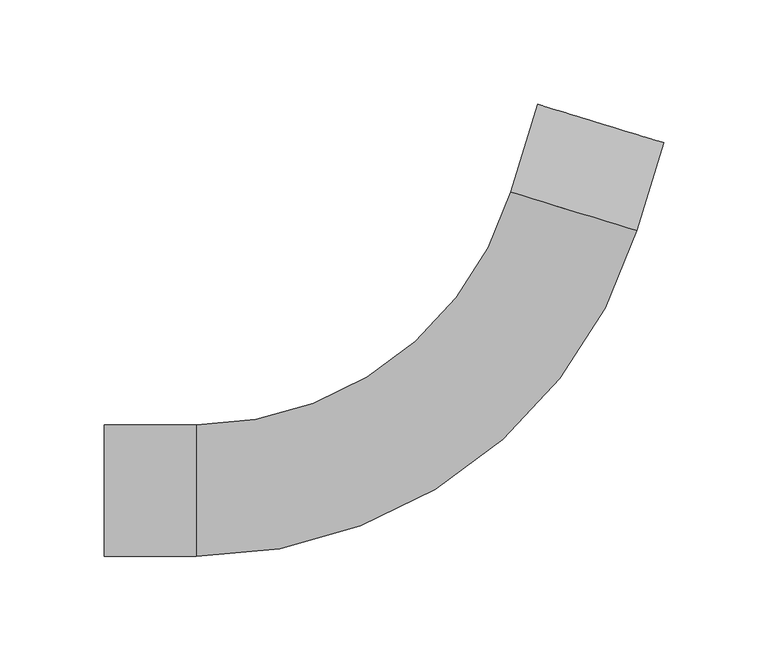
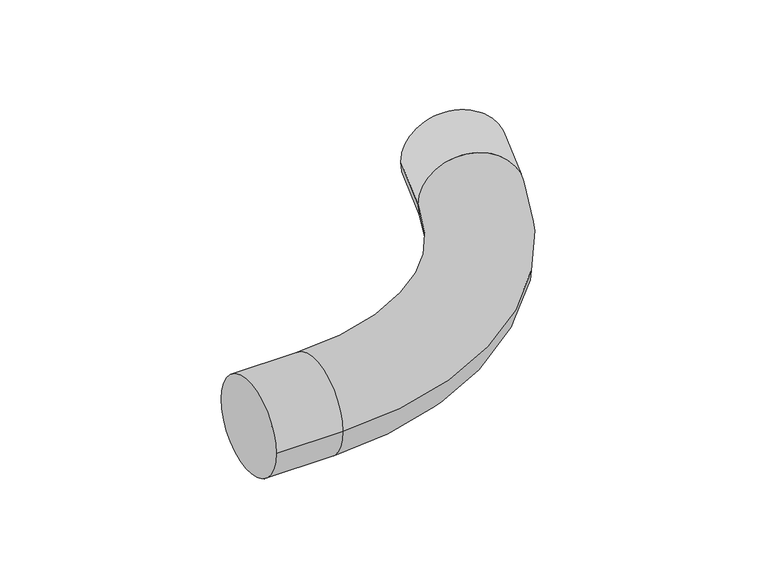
"""IFC4 building model written with IfcOpenShell, lengths in millimetres: cable carrier fitting geometry, Трубы гофрированные двустенные ПНД-ПВД : Трубы гофрированные двустенные ПНД-ПВД."""

import ifcopenshell
import ifcopenshell.guid

model = None  # the IFC model being written
_history = None  # IfcOwnerHistory: only IFC2X3 demands one
_inside = {}  # id of a spatial element -> (the spatial element, [elements in it])
_under = {}  # id of a project, library or spatial element -> (it, [spatial elements below it])
_declared = {}  # id of a project -> (the project, [libraries it declares])
_typed = {}  # id of a type object -> (the type object, [elements of that type])
_made_of = {}  # id of a material, layer set ... -> (it, [elements and type objects made of it])


def new_model(schema):
    """Start an empty IFC model of exactly this schema.

    Asked for "IFC4X3", IfcOpenShell would pick the latest addendum, in which some entities
    have other attributes; the version numbers below select the first issue.
    IFC2X3 requires an IfcOwnerHistory on every rooted entity: one is made here for all.
    """
    global model, _history
    if schema == "IFC4X3":
        model = ifcopenshell.file(schema_version=(4, 3, 0, 0))
    else:
        model = ifcopenshell.file(schema=schema)
    _inside.clear()
    _under.clear()
    _declared.clear()
    _typed.clear()
    _made_of.clear()
    _history = None
    if model.schema == "IFC2X3":
        org = make("IfcOrganization", Name="unknown")
        user = make(
            "IfcPersonAndOrganization",
            ThePerson=make("IfcPerson", FamilyName="unknown"),
            TheOrganization=org,
        )
        app = make(
            "IfcApplication",
            ApplicationDeveloper=org,
            Version="unknown",
            ApplicationFullName="unknown",
            ApplicationIdentifier="unknown",
        )
        _history = make(
            "IfcOwnerHistory",
            OwningUser=user,
            OwningApplication=app,
            ChangeAction="ADDED",
            CreationDate=0,
        )
    return model


def make(cls, **values):
    """One entity of the class cls with the attributes given. An attribute that is None is left unset."""
    return model.create_entity(
        cls, **{name: value for name, value in values.items() if value is not None}
    )


def rooted(cls, **values):
    """An entity with a GlobalId (a new one), such as an element, a storey or a relation."""
    return make(cls, GlobalId=ifcopenshell.guid.new(), OwnerHistory=_history, **values)


def si_unit(unit_type, name, prefix=None):
    """IfcSIUnit, for example si_unit("LENGTHUNIT", "METRE", prefix="MILLI")."""
    return make("IfcSIUnit", UnitType=unit_type, Prefix=prefix, Name=name)


def assignment(units):
    """IfcUnitAssignment: the units of a project."""
    return None if units is None else make("IfcUnitAssignment", Units=units)


def point(xyz):
    """IfcCartesianPoint."""
    return None if xyz is None else make("IfcCartesianPoint", Coordinates=xyz)


def direction(xyz):
    """IfcDirection."""
    return None if xyz is None else make("IfcDirection", DirectionRatios=xyz)


def frame(location, z_axis=None, x_axis=None):
    """IfcAxis2Placement3D, a coordinate frame: its origin and axes. An axis left out is left unset."""
    return make(
        "IfcAxis2Placement3D",
        Location=point(location),
        Axis=direction(z_axis),
        RefDirection=direction(x_axis),
    )


def origin():
    """The frame at (0, 0, 0) with its axes left unset."""
    return frame((0.0, 0.0, 0.0))


def place(relative_to, where):
    """IfcLocalPlacement: puts the frame where relative to a parent placement (None: the world)."""
    return make(
        "IfcLocalPlacement", PlacementRelTo=relative_to, RelativePlacement=where
    )


def context(
    kind, dimensions, precision=None, world=None, true_north=None, identifier=None
):
    """IfcGeometricRepresentationContext, for example the 3D "Model" context."""
    return make(
        "IfcGeometricRepresentationContext",
        ContextIdentifier=identifier,
        ContextType=kind,
        CoordinateSpaceDimension=dimensions,
        Precision=precision,
        WorldCoordinateSystem=world,
        TrueNorth=true_north,
    )


def project(units=None, contexts=None):
    """IfcProject with its units and contexts."""
    return rooted(
        "IfcProject",
        Name="project",
        RepresentationContexts=contexts,
        UnitsInContext=assignment(units),
    )


def spatial(cls, under=None, at=None, **own):
    """A site, building, storey or space (cls), placed at a placement, below another one or the project."""
    s = rooted(cls, ObjectPlacement=at, **own)
    if under is not None:
        _under.setdefault(under.id(), (under, []))[1].append(s)
    return s


def circle_curve(where, radius):
    """IfcCircle in the frame where."""
    return make("IfcCircle", Position=where, Radius=radius)


def ellipse_curve(where, semi_axis1, semi_axis2):
    """IfcEllipse in the frame where."""
    return make(
        "IfcEllipse", Position=where, SemiAxis1=semi_axis1, SemiAxis2=semi_axis2
    )


def trimmed(basis, trim1, trim2, sense, master):
    """IfcTrimmedCurve: the piece of a basis curve between two trims."""
    return make(
        "IfcTrimmedCurve",
        BasisCurve=basis,
        Trim1=trim1,
        Trim2=trim2,
        SenseAgreement=sense,
        MasterRepresentation=master,
    )


def shape(context_of_items, identifier, shape_type, items):
    """IfcShapeRepresentation: the items that make up one representation, for example the "Body"."""
    return make(
        "IfcShapeRepresentation",
        ContextOfItems=context_of_items,
        RepresentationIdentifier=identifier,
        RepresentationType=shape_type,
        Items=items,
    )


def source(mapping_origin, context_of_items, identifier, shape_type, items):
    """IfcRepresentationMap: a shape defined once, which mapped items show again and again."""
    return make(
        "IfcRepresentationMap",
        MappingOrigin=mapping_origin,
        MappedRepresentation=shape(context_of_items, identifier, shape_type, items),
    )


def transform(
    local_origin,
    x_axis=None,
    y_axis=None,
    z_axis=None,
    scale=None,
    scale2=None,
    scale3=None,
    uniform=True,
):
    """IfcCartesianTransformationOperator3D, or its non-uniform kind. x_axis, y_axis, z_axis: its Axis1, 2, 3."""
    if uniform:
        return make(
            "IfcCartesianTransformationOperator3D",
            Axis1=direction(x_axis),
            Axis2=direction(y_axis),
            LocalOrigin=point(local_origin),
            Scale=scale,
            Axis3=direction(z_axis),
        )
    return make(
        "IfcCartesianTransformationOperator3DnonUniform",
        Axis1=direction(x_axis),
        Axis2=direction(y_axis),
        LocalOrigin=point(local_origin),
        Scale=scale,
        Axis3=direction(z_axis),
        Scale2=scale2,
        Scale3=scale3,
    )


def mapped(mapping_source, mapping_target):
    """IfcMappedItem: shows the shape of a source again, moved by a transform."""
    return make(
        "IfcMappedItem", MappingSource=mapping_source, MappingTarget=mapping_target
    )


def made_of(thing, what):
    """Note that an element or type object is made of a material, layer set ...; save() writes the relation."""
    if what is not None:
        _made_of.setdefault(what.id(), (what, []))[1].append(thing)
    return thing


def element(
    cls,
    number,
    at=None,
    inside=None,
    cuts=None,
    type_object=None,
    material=None,
    context=None,
    identifier="Body",
    shape_type=None,
    held_by="IfcProductDefinitionShape",
    body=None,
    shapes=None,
    **own,
):
    """One element of the class cls, such as IfcWall. Its Tag is "e" and its number.

    at: its placement. inside: the storey or other place that contains it. cuts: it is an
    opening in that element (IfcRelVoidsElement). A single representation is given by context,
    identifier, shape_type and body (its items); several are given by shapes. held_by: the class
    of the entity that holds the representations. save() writes the other relations.
    """
    e = rooted(cls, Tag="e%d" % number, ObjectPlacement=at, **own)
    if body is not None:
        shapes = [shape(context, identifier, shape_type, body)]
    if shapes is not None:
        e.Representation = make(held_by, Representations=shapes)
    if inside is not None:
        _inside.setdefault(inside.id(), (inside, []))[1].append(e)
    if cuts is not None:
        rooted(
            "IfcRelVoidsElement", RelatingBuildingElement=cuts, RelatedOpeningElement=e
        )
    if type_object is not None:
        _typed.setdefault(type_object.id(), (type_object, []))[1].append(e)
    return made_of(e, material)


def aggregate(whole, parts):
    """IfcRelAggregates: a whole, such as a stair, and the parts it consists of."""
    return rooted("IfcRelAggregates", RelatingObject=whole, RelatedObjects=parts)


def save(model, path):
    """Write the relations noted so far, then the file.

    IfcRelAggregates (storeys below a building ...), IfcRelContainedInSpatialStructure (elements
    in a storey), IfcRelDefinesByType, IfcRelAssociatesMaterial and IfcRelDeclares: one each for
    every whole, place, type object, material and project.
    """
    for whole, parts in _under.values():
        aggregate(whole, parts)
    for where, things in _inside.values():
        rooted(
            "IfcRelContainedInSpatialStructure",
            RelatedElements=things,
            RelatingStructure=where,
        )
    for kind, things in _typed.values():
        rooted("IfcRelDefinesByType", RelatedObjects=things, RelatingType=kind)
    for what, things in _made_of.values():
        rooted("IfcRelAssociatesMaterial", RelatedObjects=things, RelatingMaterial=what)
    for by, libraries in _declared.values():
        rooted("IfcRelDeclares", RelatingContext=by, RelatedDefinitions=libraries)
    model.write(path)


def plane_surface(at):
    """IfcPlane: the flat surface through the origin of the frame at, square to its z axis."""
    return make("IfcPlane", Position=at)


def cylinder_surface(at, radius):
    """IfcCylindricalSurface: all points at the distance radius from the z axis of the frame at."""
    return make("IfcCylindricalSurface", Position=at, Radius=radius)


def revolved_surface(curve, axis_point, axis_direction):
    """IfcSurfaceOfRevolution: the curve turned about the line through axis_point along axis_direction."""
    return make(
        "IfcSurfaceOfRevolution",
        SweptCurve=make("IfcArbitraryOpenProfileDef", ProfileType="CURVE", Curve=curve),
        AxisPosition=make("IfcAxis1Placement", Location=point(axis_point), Axis=direction(axis_direction)),
    )


def advanced_brep(points, edges, surfaces, faces):
    """IfcAdvancedBrep: a solid bounded by faces that lie on surfaces and meet in shared edges.

    An edge is (start, end): straight between two places in points (the first is 0);
    or (start, end, curve); or (start, end, curve, False) where it runs against its curve.
    A face is (place in surfaces, loops), or (place, loops, False) where it looks against
    its surface's normal. A loop lists edges by number (the first is 1), with a minus sign
    where the edge is run from its end to its start. The first loop is the outer one.
    """
    corners = [point(p) for p in points]
    vertices = [make("IfcVertexPoint", VertexGeometry=c) for c in corners]
    made = []
    for start, end, *more in edges:
        made.append(
            make(
                "IfcEdgeCurve",
                EdgeStart=vertices[start],
                EdgeEnd=vertices[end],
                EdgeGeometry=more[0] if more else make("IfcPolyline", Points=[corners[start], corners[end]]),
                SameSense=more[1] if len(more) > 1 else True,
            )
        )
    hull = []
    for where, loops, *sense in faces:
        bounds = []
        for j, loop in enumerate(loops):
            ring = [make("IfcOrientedEdge", EdgeElement=made[abs(k) - 1], Orientation=k > 0) for k in loop]
            bounds.append(
                make(
                    "IfcFaceOuterBound" if j == 0 else "IfcFaceBound",
                    Bound=make("IfcEdgeLoop", EdgeList=ring),
                    Orientation=True,
                )
            )
        hull.append(make("IfcAdvancedFace", Bounds=bounds, FaceSurface=surfaces[where], SameSense=sense[0] if sense else True))
    return make("IfcAdvancedBrep", Outer=make("IfcClosedShell", CfsFaces=hull))


def cable_carrier_fitting_1a64ddea(model_context):
    return source(origin(), model_context, "Body", "AdvancedBrep", [
        advanced_brep(
        [(-183.8326432, -31.5, 0.0), (-183.8326432, 31.5, 0.0), (-139.8526432, -31.5, 0.0), (-139.8526432, 31.5, 0.0), (10.7653559, 142.9514565, 0.0), (71.0125555, 124.5320391, 0.0), (83.8710631, 166.5903223, 0.0), (23.6238635, 185.0097397, 0.0)],
        [
            (0, 1, circle_curve(frame((-183.8326432, 0.0, 0.0), z_axis=(-1.0, 0.0, 0.0), x_axis=(0.0, 1.0, 0.0)), 31.5)),
            (1, 0, circle_curve(frame((-183.8326432, 0.0, 0.0), z_axis=(-1.0, 0.0, 0.0), x_axis=(0.0, 1.0, 0.0)), 31.5)),
            (0, 2),
            (2, 3, circle_curve(frame((-139.8526432, 0.0, 0.0), z_axis=(-1.0, 0.0, 0.0), x_axis=(0.0, 1.0, 0.0)), 31.5)),
            (3, 1),
            (3, 2, circle_curve(frame((-139.8526432, 0.0, 0.0), z_axis=(-1.0, 0.0, 0.0), x_axis=(0.0, 1.0, 0.0)), 31.5)),
            (4, 3, circle_curve(frame((-139.8526432, 189.0, 0.0), z_axis=(0.0, 0.0, -1.0), x_axis=(0.0, -1.0, 0.0)), 157.5)),
            (2, 5, circle_curve(frame((-139.8526432, 189.0, 0.0), z_axis=(0.0, 0.0, 1.0), x_axis=(0.0, -1.0, 0.0)), 220.5)),
            (5, 4, circle_curve(frame((40.8889557, 133.7417478, 0.0), z_axis=(-0.2923717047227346, -0.9563047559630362, 0.0), x_axis=(-0.9563047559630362, 0.2923717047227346, 0.0)), 31.5)),
            (4, 5, circle_curve(frame((40.8889557, 133.7417478, 0.0), z_axis=(-0.2923717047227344, -0.9563047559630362, 0.0), x_axis=(-0.9563047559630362, 0.2923717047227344, 0.0)), 31.5)),
            (6, 7, circle_curve(frame((53.7474633, 175.800031, 0.0), z_axis=(0.2923717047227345, 0.9563047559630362, 0.0), x_axis=(-0.9563047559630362, 0.2923717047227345, 0.0)), 31.5)),
            (7, 6, circle_curve(frame((53.7474633, 175.800031, 0.0), z_axis=(0.2923717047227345, 0.9563047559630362, 0.0), x_axis=(-0.9563047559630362, 0.2923717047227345, 0.0)), 31.5)),
            (5, 6),
            (7, 4),
        ],
        [
            plane_surface(frame((-183.8326432, 0.0, 0.0), z_axis=(-1.0, 0.0, 0.0), x_axis=(0.0, 0.0, 1.0))),
            cylinder_surface(frame((-183.8326432, 0.0, 0.0), z_axis=(-1.0, 0.0, 0.0), x_axis=(0.0, 1.0, 0.0)), 31.5),
            revolved_surface(trimmed(ellipse_curve(frame((-139.8526432, 0.0, 0.0), z_axis=(-1.0, 0.0, 0.0), x_axis=(0.0, 1.0, 0.0)), 31.5, 31.5), [point((-139.8526432, -31.5, 0.0))], [point((-139.8526432, 31.5, 0.0))], True, "CARTESIAN"), (-139.8526432, 189.0, 0.0), (0.0, 0.0, 1.0)),
            revolved_surface(trimmed(ellipse_curve(frame((-139.8526432, 0.0, 0.0), z_axis=(-1.0, 0.0, 0.0), x_axis=(0.0, 1.0, 0.0)), 31.5, 31.5), [point((-139.8526432, 31.5, 0.0))], [point((-139.8526432, -31.5, 0.0))], True, "CARTESIAN"), (-139.8526432, 189.0, 0.0), (0.0, 0.0, 1.0)),
            plane_surface(frame((53.7474633, 175.800031, 0.0), z_axis=(0.2923717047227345, 0.9563047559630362, 0.0), x_axis=(0.0, 0.0, 1.0))),
            cylinder_surface(frame((40.8889557, 133.7417478, 0.0), z_axis=(-0.2923717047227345, -0.9563047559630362, 0.0), x_axis=(-0.9563047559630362, 0.2923717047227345, 0.0)), 31.5),
        ],
        [
            (0, [[1, 2]]),
            (1, [[-1, 3, 4, 5]]),
            (1, [[-2, -5, 6, -3]]),
            (2, [[7, -4, 8, 9]]),
            (3, [[-8, -6, -7, 10]]),
            (4, [[11, 12]]),
            (5, [[-9, 13, -12, 14]]),
            (5, [[-10, -14, -11, -13]]),
        ],
    ),
    ])


if __name__ == "__main__":
    model = new_model("IFC4")
    model_context = context("Model", 3, world=origin())
    ifc_project = project(units=[si_unit("LENGTHUNIT", "METRE", prefix="MILLI")], contexts=[model_context])
    site = spatial("IfcSite", under=ifc_project)
    building = spatial("IfcBuilding", under=site)
    placement = place(None, origin())
    cable_carrier_fitting_shape = cable_carrier_fitting_1a64ddea(model_context)
    element("IfcCableCarrierFitting", 1, ObjectType="Трубы гофрированные двустенные ПНД-ПВД : Трубы гофрированные двустенные ПНД-ПВД", at=placement, inside=building, context=model_context, shape_type="MappedRepresentation", body=[
        mapped(cable_carrier_fitting_shape, transform((0.0, 0.0, 0.0), x_axis=(1.0, 0.0, 0.0), y_axis=(0.0, 1.0, 0.0), z_axis=(0.0, 0.0, 1.0))),
    ])
    save(model, "model.ifc")
